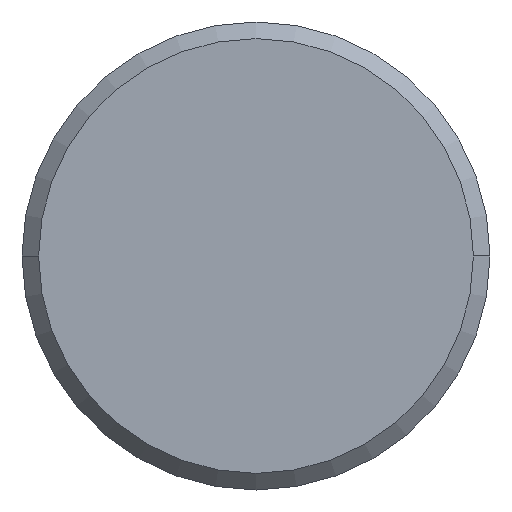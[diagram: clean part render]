
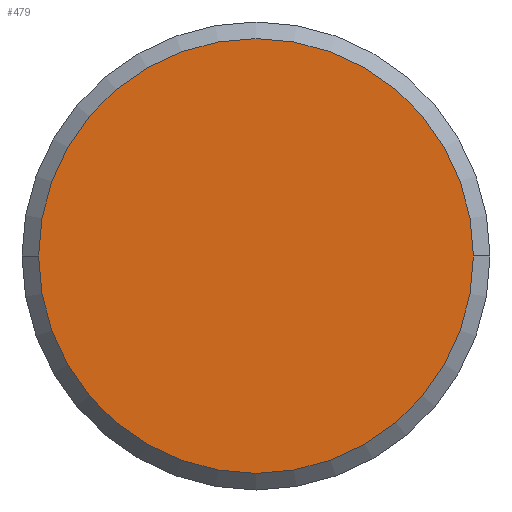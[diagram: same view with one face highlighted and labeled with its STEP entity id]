
A CAD part, left-side view. The second image highlights one B-rep face of the part: STEP entity #479.
In plain terms, the highlighted planar face has unit normal (-1, 0, 0).
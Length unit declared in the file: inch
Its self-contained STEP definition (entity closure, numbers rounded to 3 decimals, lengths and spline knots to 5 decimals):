
#26 = AXIS2_PLACEMENT_3D ( 'NONE', #536, #537, #538 ) ;
#43 = AXIS2_PLACEMENT_3D ( 'NONE', #613, #614, #615 ) ;
#50 = AXIS2_PLACEMENT_3D ( 'NONE', #290, #381, #380 ) ;
#79 = EDGE_CURVE ( 'NONE', #306, #324, #756, .T. ) ;
#124 = EDGE_CURVE ( 'NONE', #324, #306, #739, .T. ) ;
#240 = ORIENTED_EDGE ( 'NONE', *, *, #79, .F. ) ;
#276 = ORIENTED_EDGE ( 'NONE', *, *, #124, .F. ) ;
#290 = CARTESIAN_POINT ( 'NONE',  ( -2.80874, 0.04236, 0. ) ) ;
#306 = VERTEX_POINT ( 'NONE', #634 ) ;
#324 = VERTEX_POINT ( 'NONE', #656 ) ;
#341 = EDGE_LOOP ( 'NONE', ( #240, #276 ) ) ;
#380 = DIRECTION ( 'NONE',  ( 0., 1., 0. ) ) ;
#381 = DIRECTION ( 'NONE',  ( 1., 0., 0. ) ) ;
#479 = ADVANCED_FACE ( 'NONE', ( #731 ), #527, .T. ) ;
#527 = PLANE ( 'NONE',  #26 ) ;
#536 = CARTESIAN_POINT ( 'NONE',  ( -2.80874, -0.63827, -0.06785 ) ) ;
#537 = DIRECTION ( 'NONE',  ( -1., 0., 0. ) ) ;
#538 = DIRECTION ( 'NONE',  ( 0., 0., 1. ) ) ;
#613 = CARTESIAN_POINT ( 'NONE',  ( -2.80874, 0.04236, 0. ) ) ;
#614 = DIRECTION ( 'NONE',  ( 1., 0., 0. ) ) ;
#615 = DIRECTION ( 'NONE',  ( 0., 1., 0. ) ) ;
#634 = CARTESIAN_POINT ( 'NONE',  ( -2.80874, 0.85986, 0. ) ) ;
#656 = CARTESIAN_POINT ( 'NONE',  ( -2.80874, -0.77514, 0. ) ) ;
#731 = FACE_OUTER_BOUND ( 'NONE', #341, .T. ) ;
#739 = CIRCLE ( 'NONE', #43, 0.8175 ) ;
#756 = CIRCLE ( 'NONE', #50, 0.8175 ) ;
